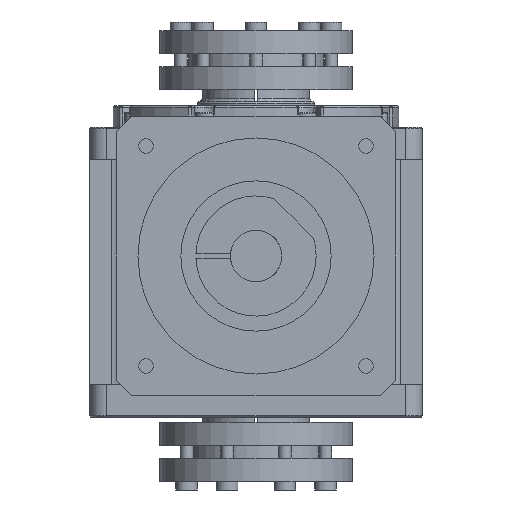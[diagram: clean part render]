
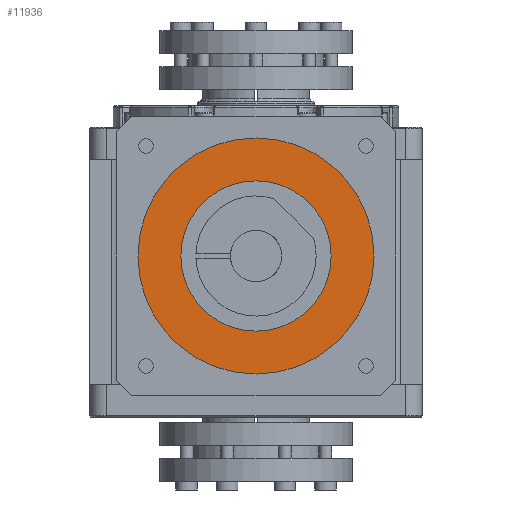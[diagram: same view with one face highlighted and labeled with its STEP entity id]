
A CAD part, front view. The second image highlights one B-rep face of the part: STEP entity #11936.
In plain terms, the highlighted planar face has unit normal (0, -1, 0) as drawn and (0, 0, -1) by its records, which use the part's own axes.
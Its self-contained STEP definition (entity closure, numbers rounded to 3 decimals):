
#27 = DIRECTION ( 'NONE',  ( -1., 0., 0. ) ) ;
#260 = CARTESIAN_POINT ( 'NONE',  ( 0., 0., -111. ) ) ;
#1445 = AXIS2_PLACEMENT_3D ( 'NONE', #10081, #15680, #4125 ) ;
#2219 = DIRECTION ( 'NONE',  ( 0., 0., -1. ) ) ;
#2336 = CIRCLE ( 'NONE', #7486, 35. ) ;
#2517 = ORIENTED_EDGE ( 'NONE', *, *, #11659, .F. ) ;
#2625 = CIRCLE ( 'NONE', #1445, 55. ) ;
#2909 = VERTEX_POINT ( 'NONE', #13770 ) ;
#2935 = DIRECTION ( 'NONE',  ( -1., 0., 0. ) ) ;
#2987 = VERTEX_POINT ( 'NONE', #17872 ) ;
#3607 = VERTEX_POINT ( 'NONE', #15443 ) ;
#3642 = PLANE ( 'NONE',  #17025 ) ;
#3863 = CIRCLE ( 'NONE', #17350, 35. ) ;
#4107 = ORIENTED_EDGE ( 'NONE', *, *, #15601, .F. ) ;
#4125 = DIRECTION ( 'NONE',  ( -1., 0., 0. ) ) ;
#4821 = DIRECTION ( 'NONE',  ( 0., 0., -1. ) ) ;
#5246 = CARTESIAN_POINT ( 'NONE',  ( 0., 0., -111. ) ) ;
#6322 = EDGE_CURVE ( 'NONE', #3607, #2987, #19708, .T. ) ;
#7225 = DIRECTION ( 'NONE',  ( 0., 0., -1. ) ) ;
#7486 = AXIS2_PLACEMENT_3D ( 'NONE', #11854, #9501, #13697 ) ;
#8817 = VERTEX_POINT ( 'NONE', #14298 ) ;
#9501 = DIRECTION ( 'NONE',  ( 0., 0., -1. ) ) ;
#10081 = CARTESIAN_POINT ( 'NONE',  ( 0., 0., -111. ) ) ;
#11088 = EDGE_LOOP ( 'NONE', ( #2517, #4107 ) ) ;
#11305 = CARTESIAN_POINT ( 'NONE',  ( 0., 0., -111. ) ) ;
#11659 = EDGE_CURVE ( 'NONE', #2909, #8817, #2336, .T. ) ;
#11854 = CARTESIAN_POINT ( 'NONE',  ( 0., 0., -111. ) ) ;
#11936 = ADVANCED_FACE ( 'NONE', ( #24222, #21982 ), #3642, .T. ) ;
#13697 = DIRECTION ( 'NONE',  ( -1., 0., 0. ) ) ;
#13770 = CARTESIAN_POINT ( 'NONE',  ( -35., 0., -111. ) ) ;
#14298 = CARTESIAN_POINT ( 'NONE',  ( 35., 0., -111. ) ) ;
#15443 = CARTESIAN_POINT ( 'NONE',  ( 55., 0., -111. ) ) ;
#15601 = EDGE_CURVE ( 'NONE', #8817, #2909, #3863, .T. ) ;
#15680 = DIRECTION ( 'NONE',  ( 0., 0., -1. ) ) ;
#16175 = EDGE_LOOP ( 'NONE', ( #23601, #17590 ) ) ;
#17025 = AXIS2_PLACEMENT_3D ( 'NONE', #5246, #7225, #20127 ) ;
#17350 = AXIS2_PLACEMENT_3D ( 'NONE', #11305, #2219, #27 ) ;
#17590 = ORIENTED_EDGE ( 'NONE', *, *, #6322, .T. ) ;
#17872 = CARTESIAN_POINT ( 'NONE',  ( -55., 0., -111. ) ) ;
#19708 = CIRCLE ( 'NONE', #22074, 55. ) ;
#20127 = DIRECTION ( 'NONE',  ( -1., 0., 0. ) ) ;
#20617 = EDGE_CURVE ( 'NONE', #2987, #3607, #2625, .T. ) ;
#21982 = FACE_OUTER_BOUND ( 'NONE', #16175, .T. ) ;
#22074 = AXIS2_PLACEMENT_3D ( 'NONE', #260, #4821, #2935 ) ;
#23601 = ORIENTED_EDGE ( 'NONE', *, *, #20617, .T. ) ;
#24222 = FACE_BOUND ( 'NONE', #11088, .T. ) ;
